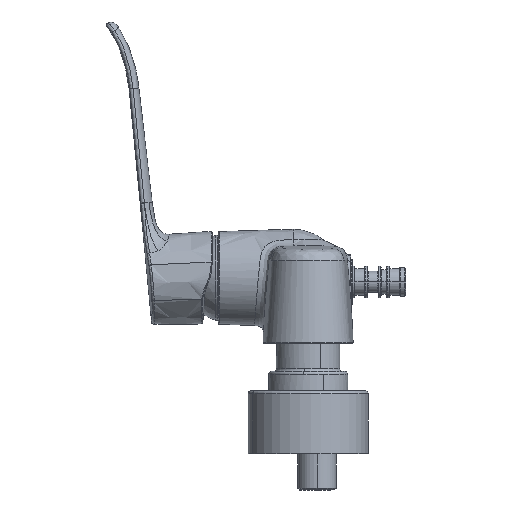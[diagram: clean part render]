
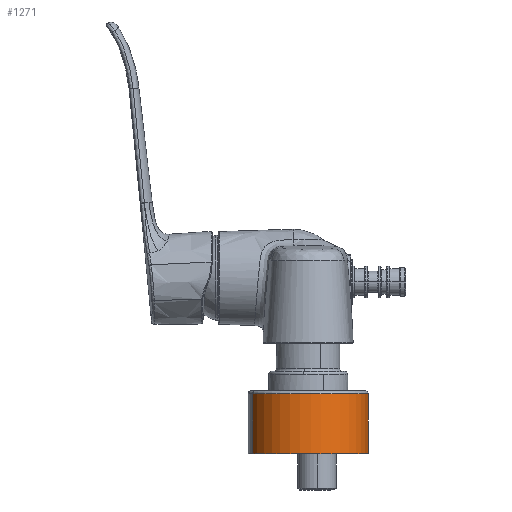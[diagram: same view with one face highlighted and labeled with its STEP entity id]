
A CAD part, left-side view. The second image highlights one B-rep face of the part: STEP entity #1271.
In plain terms, the highlighted cylindrical face has radius 32.5 mm (diameter 65 mm), a partial arc.
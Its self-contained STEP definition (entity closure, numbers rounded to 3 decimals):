
#78 = ORIENTED_EDGE ( 'NONE', *, *, #14829, .F. ) ;
#370 = DIRECTION ( 'NONE',  ( 0., 0., -1. ) ) ;
#1271 = ADVANCED_FACE ( 'NONE', ( #16736 ), #18330, .T. ) ;
#1816 = EDGE_CURVE ( 'NONE', #18851, #5616, #6410, .T. ) ;
#2005 = DIRECTION ( 'NONE',  ( 0.382, -0.924, 0. ) ) ;
#2303 = AXIS2_PLACEMENT_3D ( 'NONE', #16076, #7647, #21180 ) ;
#3607 = EDGE_CURVE ( 'NONE', #16760, #16061, #10100, .T. ) ;
#4028 = LINE ( 'NONE', #9095, #16245 ) ;
#4992 = AXIS2_PLACEMENT_3D ( 'NONE', #19161, #370, #12402 ) ;
#5245 = EDGE_LOOP ( 'NONE', ( #78, #12730, #6201, #16563 ) ) ;
#5264 = CARTESIAN_POINT ( 'NONE',  ( -75., -0.104, -95.193 ) ) ;
#5516 = CARTESIAN_POINT ( 'NONE',  ( -62.59, -30.141, -62.694 ) ) ;
#5616 = VERTEX_POINT ( 'NONE', #21323 ) ;
#6201 = ORIENTED_EDGE ( 'NONE', *, *, #18421, .T. ) ;
#6410 = CIRCLE ( 'NONE', #2303, 32.5 ) ;
#7647 = DIRECTION ( 'NONE',  ( 0., 0., -1. ) ) ;
#9095 = CARTESIAN_POINT ( 'NONE',  ( -87.41, 29.933, -61.293 ) ) ;
#10100 = CIRCLE ( 'NONE', #12383, 32.5 ) ;
#12383 = AXIS2_PLACEMENT_3D ( 'NONE', #5264, #17185, #2005 ) ;
#12402 = DIRECTION ( 'NONE',  ( -0.382, 0.924, 0. ) ) ;
#12730 = ORIENTED_EDGE ( 'NONE', *, *, #1816, .T. ) ;
#12919 = CARTESIAN_POINT ( 'NONE',  ( -87.41, 29.933, -95.193 ) ) ;
#13247 = CARTESIAN_POINT ( 'NONE',  ( -62.59, -30.141, -61.293 ) ) ;
#14829 = EDGE_CURVE ( 'NONE', #18851, #16061, #17366, .T. ) ;
#16061 = VERTEX_POINT ( 'NONE', #17406 ) ;
#16076 = CARTESIAN_POINT ( 'NONE',  ( -75., -0.104, -62.694 ) ) ;
#16245 = VECTOR ( 'NONE', #21138, 1000. ) ;
#16563 = ORIENTED_EDGE ( 'NONE', *, *, #3607, .T. ) ;
#16736 = FACE_OUTER_BOUND ( 'NONE', #5245, .T. ) ;
#16760 = VERTEX_POINT ( 'NONE', #12919 ) ;
#17185 = DIRECTION ( 'NONE',  ( 0., 0., 1. ) ) ;
#17366 = LINE ( 'NONE', #13247, #21068 ) ;
#17406 = CARTESIAN_POINT ( 'NONE',  ( -62.59, -30.141, -95.193 ) ) ;
#18330 = CYLINDRICAL_SURFACE ( 'NONE', #4992, 32.5 ) ;
#18421 = EDGE_CURVE ( 'NONE', #5616, #16760, #4028, .T. ) ;
#18851 = VERTEX_POINT ( 'NONE', #5516 ) ;
#19161 = CARTESIAN_POINT ( 'NONE',  ( -75., -0.104, -61.293 ) ) ;
#21068 = VECTOR ( 'NONE', #21777, 1000. ) ;
#21138 = DIRECTION ( 'NONE',  ( 0., 0., -1. ) ) ;
#21180 = DIRECTION ( 'NONE',  ( -0.924, -0.382, 0. ) ) ;
#21323 = CARTESIAN_POINT ( 'NONE',  ( -87.41, 29.933, -62.694 ) ) ;
#21777 = DIRECTION ( 'NONE',  ( 0., 0., -1. ) ) ;
